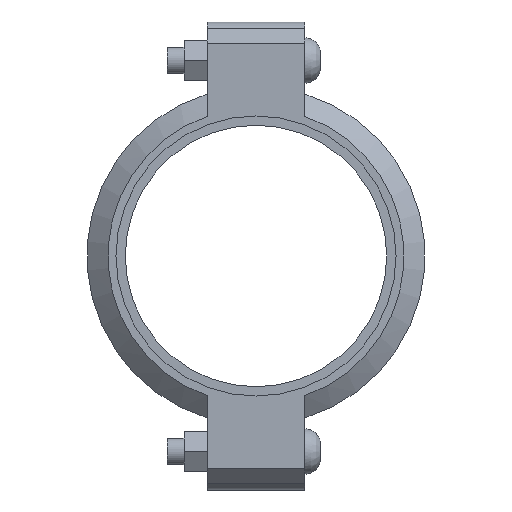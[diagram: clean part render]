
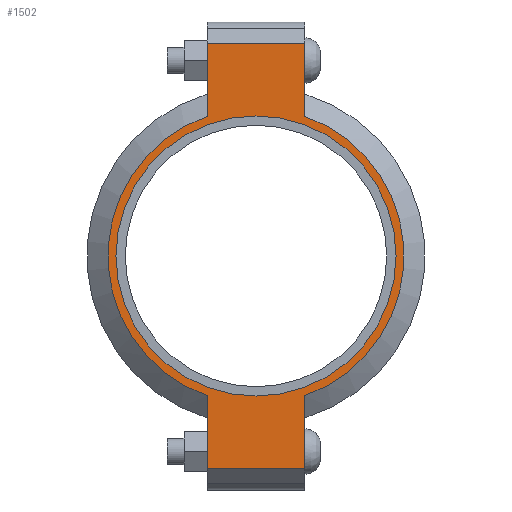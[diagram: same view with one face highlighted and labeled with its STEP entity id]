
A CAD part, left-side view. The second image highlights one B-rep face of the part: STEP entity #1502.
In plain terms, the highlighted planar face has unit normal (-1, 0, 0) as drawn and (0, 0, 1) by its records, which use the part's own axes.
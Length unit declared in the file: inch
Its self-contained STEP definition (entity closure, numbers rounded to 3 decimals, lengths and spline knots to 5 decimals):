
#126=LINE('',#2621,#219);
#134=LINE('',#2657,#227);
#141=LINE('',#2678,#234);
#150=LINE('',#2710,#243);
#151=LINE('',#2714,#244);
#152=LINE('',#2716,#245);
#219=VECTOR('',#2145,0.3937);
#227=VECTOR('',#2161,0.3937);
#234=VECTOR('',#2180,0.3937);
#243=VECTOR('',#2205,0.3937);
#244=VECTOR('',#2210,0.3937);
#245=VECTOR('',#2211,0.3937);
#301=FACE_BOUND('',#479,.T.);
#373=FACE_OUTER_BOUND('',#478,.T.);
#478=EDGE_LOOP('',(#1243,#1244,#1245,#1246,#1247,#1248,#1249,#1250));
#479=EDGE_LOOP('',(#1251));
#551=CIRCLE('',#1721,3.3125);
#577=CIRCLE('',#1780,3.5);
#578=CIRCLE('',#1781,3.5);
#643=VERTEX_POINT('',#2437);
#686=VERTEX_POINT('',#2618);
#687=VERTEX_POINT('',#2620);
#698=VERTEX_POINT('',#2652);
#699=VERTEX_POINT('',#2656);
#706=VERTEX_POINT('',#2675);
#707=VERTEX_POINT('',#2677);
#717=VERTEX_POINT('',#2713);
#718=VERTEX_POINT('',#2715);
#799=EDGE_CURVE('',#643,#643,#551,.T.);
#860=EDGE_CURVE('',#687,#686,#126,.T.);
#874=EDGE_CURVE('',#699,#698,#134,.T.);
#884=EDGE_CURVE('',#707,#706,#141,.T.);
#899=EDGE_CURVE('',#699,#686,#150,.T.);
#900=EDGE_CURVE('',#698,#707,#577,.T.);
#901=EDGE_CURVE('',#717,#706,#151,.T.);
#902=EDGE_CURVE('',#717,#718,#152,.T.);
#903=EDGE_CURVE('',#718,#687,#578,.T.);
#1243=ORIENTED_EDGE('',*,*,#899,.F.);
#1244=ORIENTED_EDGE('',*,*,#874,.T.);
#1245=ORIENTED_EDGE('',*,*,#900,.T.);
#1246=ORIENTED_EDGE('',*,*,#884,.T.);
#1247=ORIENTED_EDGE('',*,*,#901,.F.);
#1248=ORIENTED_EDGE('',*,*,#902,.T.);
#1249=ORIENTED_EDGE('',*,*,#903,.T.);
#1250=ORIENTED_EDGE('',*,*,#860,.T.);
#1251=ORIENTED_EDGE('',*,*,#799,.T.);
#1344=PLANE('',#1779);
#1502=ADVANCED_FACE('',(#373,#301),#1344,.T.);
#1721=AXIS2_PLACEMENT_3D('',#2439,#2021,#2022);
#1779=AXIS2_PLACEMENT_3D('',#2711,#2206,#2207);
#1780=AXIS2_PLACEMENT_3D('',#2712,#2208,#2209);
#1781=AXIS2_PLACEMENT_3D('',#2717,#2212,#2213);
#2021=DIRECTION('center_axis',(0.,0.,-1.));
#2022=DIRECTION('ref_axis',(-1.,0.,0.));
#2145=DIRECTION('',(-1.,0.,0.));
#2161=DIRECTION('',(1.,0.,0.));
#2180=DIRECTION('',(1.,0.,0.));
#2205=DIRECTION('',(0.,1.,0.));
#2206=DIRECTION('center_axis',(0.,0.,1.));
#2207=DIRECTION('ref_axis',(1.,0.,0.));
#2208=DIRECTION('center_axis',(0.,0.,1.));
#2209=DIRECTION('ref_axis',(-1.,0.,0.));
#2210=DIRECTION('',(0.,-1.,0.));
#2211=DIRECTION('',(-1.,0.,0.));
#2212=DIRECTION('center_axis',(0.,0.,1.));
#2213=DIRECTION('ref_axis',(-1.,0.,0.));
#2437=CARTESIAN_POINT('',(3.3125,0.,1.065));
#2439=CARTESIAN_POINT('Origin',(0.,0.,1.065));
#2618=CARTESIAN_POINT('',(-5.035,1.156,1.065));
#2620=CARTESIAN_POINT('',(-3.30358,1.156,1.065));
#2621=CARTESIAN_POINT('',(-5.535,1.156,1.065));
#2652=CARTESIAN_POINT('',(-3.30358,-1.156,1.065));
#2656=CARTESIAN_POINT('',(-5.035,-1.156,1.065));
#2657=CARTESIAN_POINT('',(5.535,-1.156,1.065));
#2675=CARTESIAN_POINT('',(5.035,-1.156,1.065));
#2677=CARTESIAN_POINT('',(3.30358,-1.156,1.065));
#2678=CARTESIAN_POINT('',(5.535,-1.156,1.065));
#2710=CARTESIAN_POINT('',(-5.035,0.578,1.065));
#2711=CARTESIAN_POINT('Origin',(0.,0.,1.065));
#2712=CARTESIAN_POINT('Origin',(0.,0.,1.065));
#2713=CARTESIAN_POINT('',(5.035,1.156,1.065));
#2714=CARTESIAN_POINT('',(5.035,-0.578,1.065));
#2715=CARTESIAN_POINT('',(3.30358,1.156,1.065));
#2716=CARTESIAN_POINT('',(-5.535,1.156,1.065));
#2717=CARTESIAN_POINT('Origin',(0.,0.,1.065));
